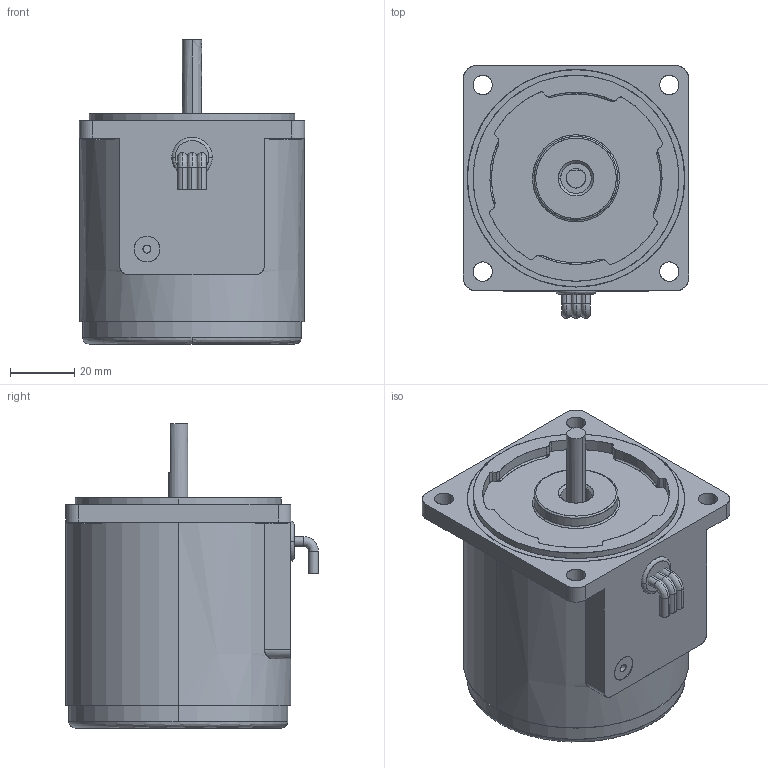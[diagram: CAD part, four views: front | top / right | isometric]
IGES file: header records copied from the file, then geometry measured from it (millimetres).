
Start section: SolidWorks IGES file using analytic representation for surfaces
Bounding box: 70 x 78.5 x 94.5 mm (x, y, z)
Surface area: 50949.3 mm2 (no closed solid volume)
Topology: 0 solids, 0 shells, 177 faces, 3245 edges, 3245 vertices
Faces by surface type: revolution 91, bspline 86
